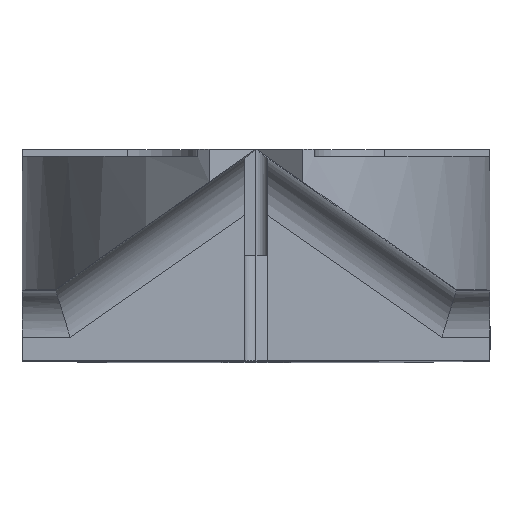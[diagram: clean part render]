
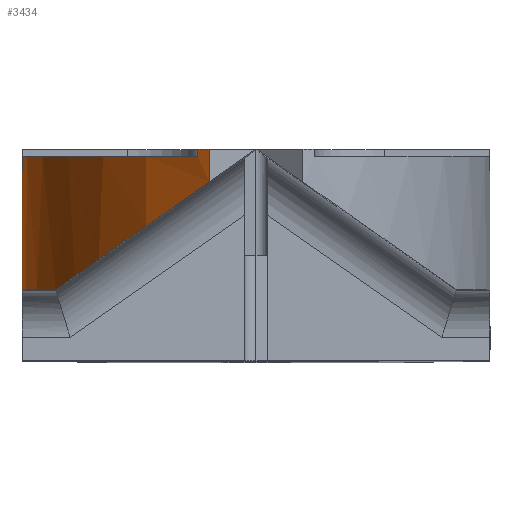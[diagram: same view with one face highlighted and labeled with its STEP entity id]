
A CAD part, top view. The second image highlights one B-rep face of the part: STEP entity #3434.
In plain terms, the highlighted cylindrical face has radius 20 mm (diameter 40 mm), a partial arc.
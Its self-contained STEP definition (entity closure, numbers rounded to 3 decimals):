
#62 = EDGE_CURVE ( 'NONE', #3024, #4055, #1132, .T. ) ;
#80 = CARTESIAN_POINT ( 'NONE',  ( -2., 6., 35. ) ) ;
#229 = ORIENTED_EDGE ( 'NONE', *, *, #2587, .F. ) ;
#280 = LINE ( 'NONE', #80, #4213 ) ;
#400 = ORIENTED_EDGE ( 'NONE', *, *, #923, .F. ) ;
#460 = VERTEX_POINT ( 'NONE', #3775 ) ;
#569 = EDGE_CURVE ( 'NONE', #3009, #460, #3579, .T. ) ;
#625 = ORIENTED_EDGE ( 'NONE', *, *, #62, .T. ) ;
#644 = CIRCLE ( 'NONE', #4843, 20. ) ;
#682 = EDGE_CURVE ( 'NONE', #3024, #2530, #2869, .T. ) ;
#773 = CARTESIAN_POINT ( 'NONE',  ( 10., 8.7, 19. ) ) ;
#923 = EDGE_CURVE ( 'NONE', #460, #4528, #644, .T. ) ;
#1023 = VECTOR ( 'NONE', #1496, 1000. ) ;
#1066 = ORIENTED_EDGE ( 'NONE', *, *, #682, .F. ) ;
#1088 = EDGE_LOOP ( 'NONE', ( #3304, #1066, #625, #2085, #229, #400, #4909 ) ) ;
#1132 = LINE ( 'NONE', #1405, #1023 ) ;
#1158 = DIRECTION ( 'NONE',  ( 0., 0., 1. ) ) ;
#1351 = DIRECTION ( 'NONE',  ( 0., 1., 0. ) ) ;
#1381 = EDGE_CURVE ( 'NONE', #3009, #2530, #280, .T. ) ;
#1405 = CARTESIAN_POINT ( 'NONE',  ( -2.5, 6., 34.612 ) ) ;
#1490 = CIRCLE ( 'NONE', #3025, 20. ) ;
#1496 = DIRECTION ( 'NONE',  ( 0., -1., 0. ) ) ;
#1605 = DIRECTION ( 'NONE',  ( 0., 1., 0. ) ) ;
#1793 = LINE ( 'NONE', #2915, #4533 ) ;
#1957 = CARTESIAN_POINT ( 'NONE',  ( -2., 7.6, 35. ) ) ;
#1987 = CARTESIAN_POINT ( 'NONE',  ( -10., 8.7, 19. ) ) ;
#2026 = DIRECTION ( 'NONE',  ( 0., 1., 0. ) ) ;
#2085 = ORIENTED_EDGE ( 'NONE', *, *, #2971, .T. ) ;
#2097 = AXIS2_PLACEMENT_3D ( 'NONE', #4437, #3168, #4407 ) ;
#2350 = AXIS2_PLACEMENT_3D ( 'NONE', #3354, #1605, #4235 ) ;
#2530 = VERTEX_POINT ( 'NONE', #2556 ) ;
#2556 = CARTESIAN_POINT ( 'NONE',  ( -2., 9., 35. ) ) ;
#2587 = EDGE_CURVE ( 'NONE', #4528, #4725, #1793, .T. ) ;
#2770 = CARTESIAN_POINT ( 'NONE',  ( 10., 3., 19. ) ) ;
#2799 = DIRECTION ( 'NONE',  ( 0., -1., 0. ) ) ;
#2869 = CIRCLE ( 'NONE', #2097, 20. ) ;
#2875 = DIRECTION ( 'NONE',  ( 0., 0., 1. ) ) ;
#2915 = CARTESIAN_POINT ( 'NONE',  ( -10., 4.5, 19. ) ) ;
#2971 = EDGE_CURVE ( 'NONE', #4055, #4725, #1490, .T. ) ;
#3009 = VERTEX_POINT ( 'NONE', #1957 ) ;
#3024 = VERTEX_POINT ( 'NONE', #3458 ) ;
#3025 = AXIS2_PLACEMENT_3D ( 'NONE', #773, #3427, #1158 ) ;
#3168 = DIRECTION ( 'NONE',  ( 0., 1., 0. ) ) ;
#3304 = ORIENTED_EDGE ( 'NONE', *, *, #1381, .T. ) ;
#3349 = CARTESIAN_POINT ( 'NONE',  ( -4.953, 5.532, 32.786 ) ) ;
#3354 = CARTESIAN_POINT ( 'NONE',  ( 10., 2.4, 19. ) ) ;
#3379 = CARTESIAN_POINT ( 'NONE',  ( -7.198, 3.96, 29.856 ) ) ;
#3397 = CARTESIAN_POINT ( 'NONE',  ( -2., 7.6, 35. ) ) ;
#3412 = CARTESIAN_POINT ( 'NONE',  ( -8.569, 3., 26.429 ) ) ;
#3427 = DIRECTION ( 'NONE',  ( 0., -1., 0. ) ) ;
#3434 = ADVANCED_FACE ( 'NONE', ( #4032 ), #4892, .T. ) ;
#3458 = CARTESIAN_POINT ( 'NONE',  ( -2.5, 9., 34.612 ) ) ;
#3526 = CARTESIAN_POINT ( 'NONE',  ( -10., 3., 19. ) ) ;
#3579 =( BOUNDED_CURVE ( )  B_SPLINE_CURVE ( 3, ( #3397, #3349, #3379, #3412 ),
 .UNSPECIFIED., .F., .T. ) 
 B_SPLINE_CURVE_WITH_KNOTS ( ( 4, 4 ),
 ( 2.214, 2.761 ),
 .UNSPECIFIED. ) 
 CURVE ( )  GEOMETRIC_REPRESENTATION_ITEM ( )  RATIONAL_B_SPLINE_CURVE ( ( 1., 0.975, 0.975, 1. ) ) 
 REPRESENTATION_ITEM ( '' )  );
#3775 = CARTESIAN_POINT ( 'NONE',  ( -8.569, 3., 26.429 ) ) ;
#3945 = CARTESIAN_POINT ( 'NONE',  ( -2.5, 8.7, 34.612 ) ) ;
#4032 = FACE_OUTER_BOUND ( 'NONE', #1088, .T. ) ;
#4055 = VERTEX_POINT ( 'NONE', #3945 ) ;
#4213 = VECTOR ( 'NONE', #1351, 1000. ) ;
#4235 = DIRECTION ( 'NONE',  ( 0., 0., 1. ) ) ;
#4407 = DIRECTION ( 'NONE',  ( 0., 0., 1. ) ) ;
#4437 = CARTESIAN_POINT ( 'NONE',  ( 10., 9., 19. ) ) ;
#4528 = VERTEX_POINT ( 'NONE', #3526 ) ;
#4533 = VECTOR ( 'NONE', #2026, 1000. ) ;
#4725 = VERTEX_POINT ( 'NONE', #1987 ) ;
#4843 = AXIS2_PLACEMENT_3D ( 'NONE', #2770, #2799, #2875 ) ;
#4892 = CYLINDRICAL_SURFACE ( 'NONE', #2350, 20. ) ;
#4909 = ORIENTED_EDGE ( 'NONE', *, *, #569, .F. ) ;
